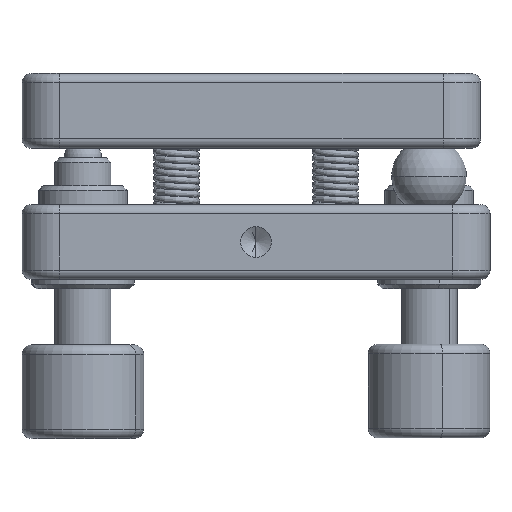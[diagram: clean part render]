
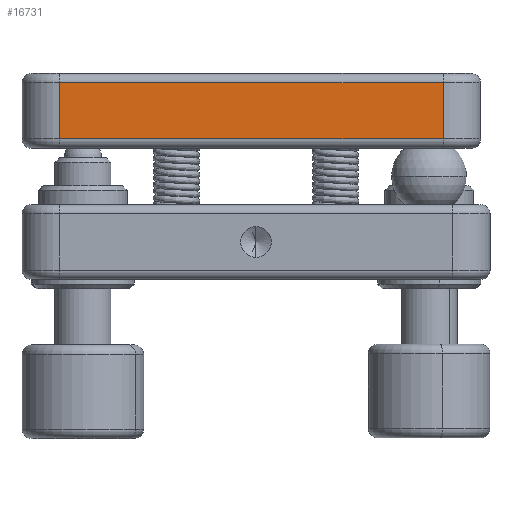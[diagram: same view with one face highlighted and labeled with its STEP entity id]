
A CAD part, front view. The second image highlights one B-rep face of the part: STEP entity #16731.
In plain terms, the highlighted planar face has unit normal (0, -1, 0).
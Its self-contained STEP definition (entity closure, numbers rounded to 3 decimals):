
#590 = VERTEX_POINT ( 'NONE', #6651 ) ;
#1922 = EDGE_CURVE ( 'NONE', #23335, #16865, #3850, .T. ) ;
#2076 = CARTESIAN_POINT ( 'NONE',  ( 20.424, -26.45, 11. ) ) ;
#3850 = LINE ( 'NONE', #14589, #11705 ) ;
#4258 = ORIENTED_EDGE ( 'NONE', *, *, #8924, .T. ) ;
#5448 = AXIS2_PLACEMENT_3D ( 'NONE', #21391, #10354, #12181 ) ;
#6139 = VERTEX_POINT ( 'NONE', #14758 ) ;
#6301 = LINE ( 'NONE', #12502, #21336 ) ;
#6651 = CARTESIAN_POINT ( 'NONE',  ( 20.424, -26.45, 11. ) ) ;
#7537 = CARTESIAN_POINT ( 'NONE',  ( -20.576, -26.45, 17. ) ) ;
#7792 = DIRECTION ( 'NONE',  ( 0., 0., 1. ) ) ;
#8924 = EDGE_CURVE ( 'NONE', #16865, #6139, #6301, .T. ) ;
#9570 = CARTESIAN_POINT ( 'NONE',  ( 20.424, -26.45, 18. ) ) ;
#10354 = DIRECTION ( 'NONE',  ( 0., 1., 0. ) ) ;
#11014 = CARTESIAN_POINT ( 'NONE',  ( 20.424, -26.45, 17. ) ) ;
#11705 = VECTOR ( 'NONE', #19929, 1000. ) ;
#12155 = EDGE_CURVE ( 'NONE', #6139, #590, #14363, .T. ) ;
#12181 = DIRECTION ( 'NONE',  ( 0., 0., 1. ) ) ;
#12502 = CARTESIAN_POINT ( 'NONE',  ( -20.576, -26.45, 18. ) ) ;
#13971 = PLANE ( 'NONE',  #5448 ) ;
#14363 = LINE ( 'NONE', #2076, #15529 ) ;
#14537 = EDGE_CURVE ( 'NONE', #590, #23335, #20504, .T. ) ;
#14589 = CARTESIAN_POINT ( 'NONE',  ( -24.576, -26.45, 17. ) ) ;
#14758 = CARTESIAN_POINT ( 'NONE',  ( -20.576, -26.45, 11. ) ) ;
#15421 = ORIENTED_EDGE ( 'NONE', *, *, #14537, .T. ) ;
#15529 = VECTOR ( 'NONE', #20730, 1000. ) ;
#15938 = DIRECTION ( 'NONE',  ( 0., 0., -1. ) ) ;
#16731 = ADVANCED_FACE ( 'NONE', ( #20450 ), #13971, .F. ) ;
#16865 = VERTEX_POINT ( 'NONE', #7537 ) ;
#19929 = DIRECTION ( 'NONE',  ( -1., 0., 0. ) ) ;
#20450 = FACE_OUTER_BOUND ( 'NONE', #22079, .T. ) ;
#20504 = LINE ( 'NONE', #9570, #23387 ) ;
#20730 = DIRECTION ( 'NONE',  ( 1., 0., 0. ) ) ;
#20767 = ORIENTED_EDGE ( 'NONE', *, *, #1922, .T. ) ;
#21336 = VECTOR ( 'NONE', #15938, 1000. ) ;
#21391 = CARTESIAN_POINT ( 'NONE',  ( -24.576, -26.45, 18. ) ) ;
#22079 = EDGE_LOOP ( 'NONE', ( #15421, #20767, #4258, #22182 ) ) ;
#22182 = ORIENTED_EDGE ( 'NONE', *, *, #12155, .T. ) ;
#23335 = VERTEX_POINT ( 'NONE', #11014 ) ;
#23387 = VECTOR ( 'NONE', #7792, 1000. ) ;
